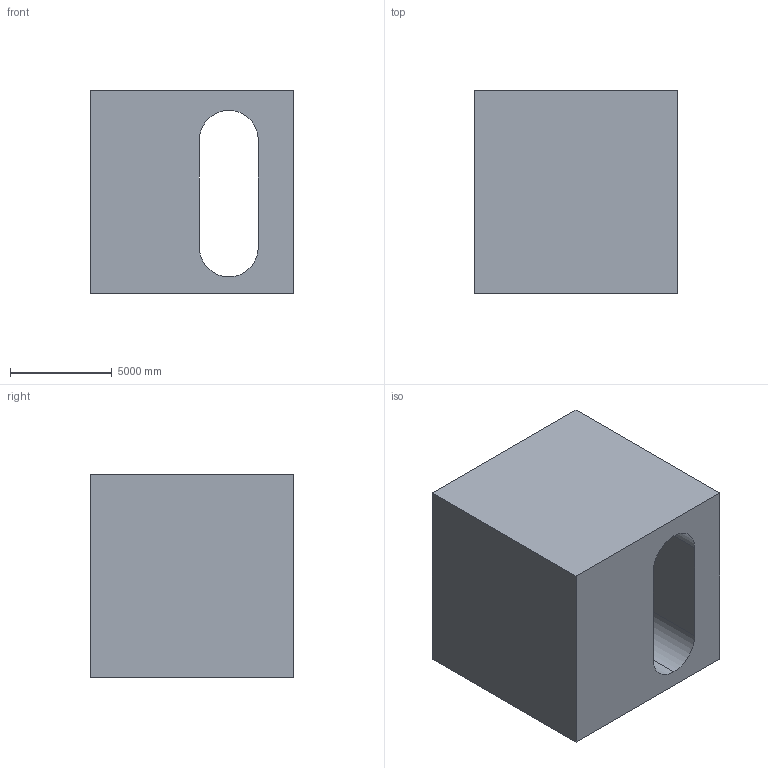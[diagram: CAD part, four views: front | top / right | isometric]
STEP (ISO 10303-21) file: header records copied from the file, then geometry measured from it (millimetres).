
FILE_DESCRIPTION (( 'STEP AP203' ), '1' );
FILE_NAME ('41.STEP', '2022-07-28T13:28:22', ( 'user' ), ( '' ), 'SwSTEP 2.0', 'SolidWorks 2021', '' );
FILE_SCHEMA (( 'CONFIG_CONTROL_DESIGN' ));
Length unit declared in the file: centimetre
Products named in the file (1): 41
Bounding box: 10000 x 10000 x 10000 mm (x, y, z)
Volume: 739236571640.3 mm3; surface area: 759081022.8 mm2
Topology: 1 solids, 1 shells, 15 faces, 39 edges, 26 vertices
Faces by surface type: plane 10, cylinder 5
Entity records: 544 total; most frequent: DIRECTION 81, CARTESIAN_POINT 81, ORIENTED_EDGE 78, EDGE_CURVE 39, LINE 29, VECTOR 29, VERTEX_POINT 26, AXIS2_PLACEMENT_3D 26
